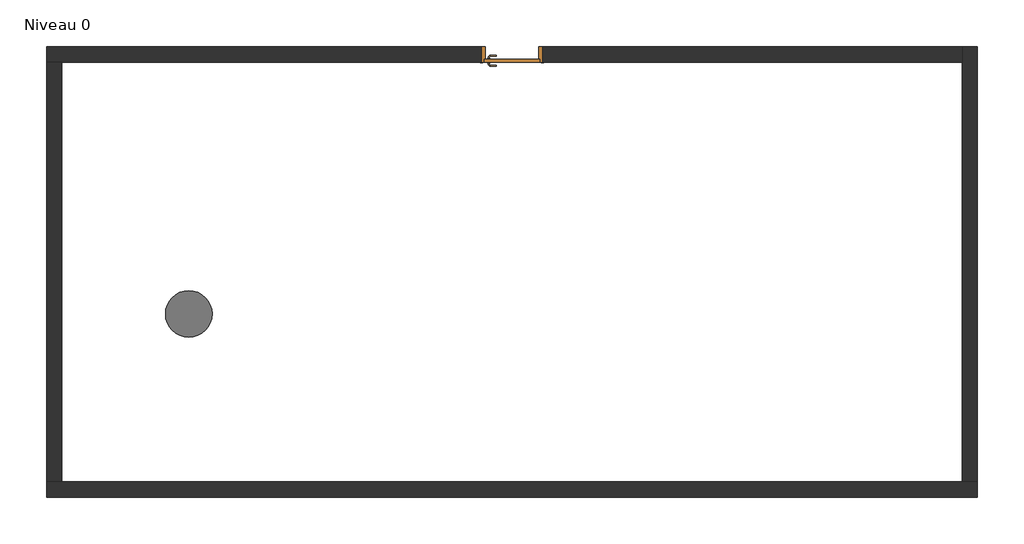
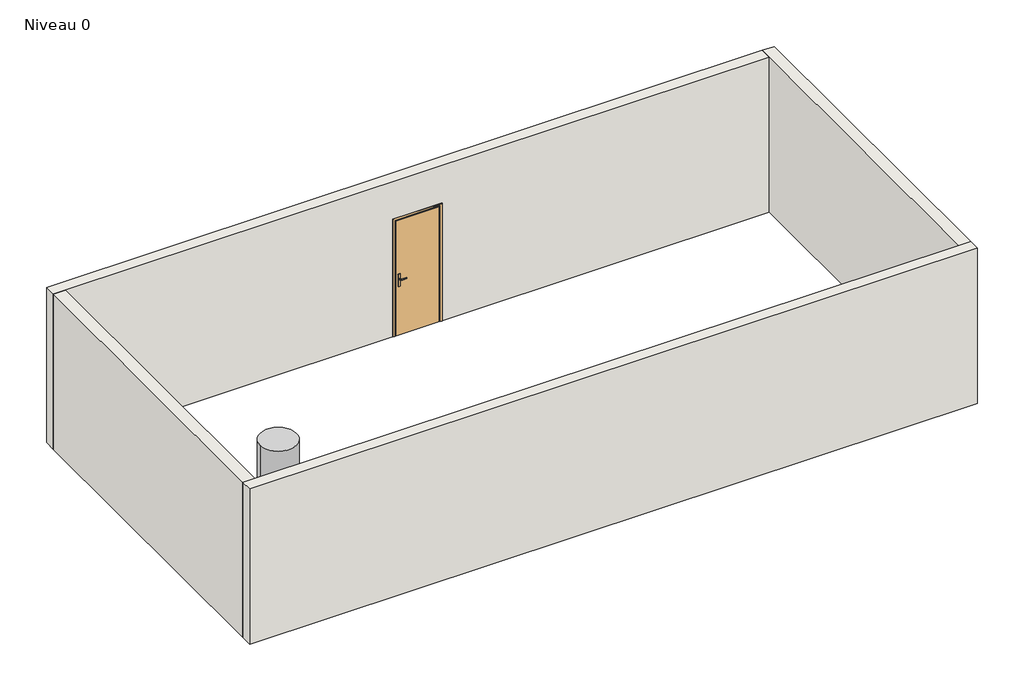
# One storey, incomplete: 4 walls, 1 door, 1 flow terminal.
"""IFC4 building model written with IfcOpenShell, lengths in millimetres."""

import ifcopenshell
import ifcopenshell.guid

model = None  # the IFC model being written
_history = None  # IfcOwnerHistory: only IFC2X3 demands one
_inside = {}  # id of a spatial element -> (the spatial element, [elements in it])
_under = {}  # id of a project, library or spatial element -> (it, [spatial elements below it])
_declared = {}  # id of a project -> (the project, [libraries it declares])
_typed = {}  # id of a type object -> (the type object, [elements of that type])
_made_of = {}  # id of a material, layer set ... -> (it, [elements and type objects made of it])


def new_model(schema):
    """Start an empty IFC model of exactly this schema.

    Asked for "IFC4X3", IfcOpenShell would pick the latest addendum, in which some entities
    have other attributes; the version numbers below select the first issue.
    IFC2X3 requires an IfcOwnerHistory on every rooted entity: one is made here for all.
    """
    global model, _history
    if schema == "IFC4X3":
        model = ifcopenshell.file(schema_version=(4, 3, 0, 0))
    else:
        model = ifcopenshell.file(schema=schema)
    _inside.clear()
    _under.clear()
    _declared.clear()
    _typed.clear()
    _made_of.clear()
    _history = None
    if model.schema == "IFC2X3":
        org = make("IfcOrganization", Name="unknown")
        user = make(
            "IfcPersonAndOrganization",
            ThePerson=make("IfcPerson", FamilyName="unknown"),
            TheOrganization=org,
        )
        app = make(
            "IfcApplication",
            ApplicationDeveloper=org,
            Version="unknown",
            ApplicationFullName="unknown",
            ApplicationIdentifier="unknown",
        )
        _history = make(
            "IfcOwnerHistory",
            OwningUser=user,
            OwningApplication=app,
            ChangeAction="ADDED",
            CreationDate=0,
        )
    return model


def make(cls, **values):
    """One entity of the class cls with the attributes given. An attribute that is None is left unset."""
    return model.create_entity(
        cls, **{name: value for name, value in values.items() if value is not None}
    )


def rooted(cls, **values):
    """An entity with a GlobalId (a new one), such as an element, a storey or a relation."""
    return make(cls, GlobalId=ifcopenshell.guid.new(), OwnerHistory=_history, **values)


def si_unit(unit_type, name, prefix=None):
    """IfcSIUnit, for example si_unit("LENGTHUNIT", "METRE", prefix="MILLI")."""
    return make("IfcSIUnit", UnitType=unit_type, Prefix=prefix, Name=name)


def assignment(units):
    """IfcUnitAssignment: the units of a project."""
    return None if units is None else make("IfcUnitAssignment", Units=units)


def point(xyz):
    """IfcCartesianPoint."""
    return None if xyz is None else make("IfcCartesianPoint", Coordinates=xyz)


def direction(xyz):
    """IfcDirection."""
    return None if xyz is None else make("IfcDirection", DirectionRatios=xyz)


def frame(location, z_axis=None, x_axis=None):
    """IfcAxis2Placement3D, a coordinate frame: its origin and axes. An axis left out is left unset."""
    return make(
        "IfcAxis2Placement3D",
        Location=point(location),
        Axis=direction(z_axis),
        RefDirection=direction(x_axis),
    )


def frame_2d(location, x_axis=None):
    """IfcAxis2Placement2D, a coordinate frame in the plane: its origin and x axis."""
    return make(
        "IfcAxis2Placement2D", Location=point(location), RefDirection=direction(x_axis)
    )


def origin():
    """The frame at (0, 0, 0) with its axes left unset."""
    return frame((0.0, 0.0, 0.0))


def origin_with_axes():
    """The frame at (0, 0, 0) with the z axis (0, 0, 1) and the x axis (1, 0, 0) written out."""
    return frame((0.0, 0.0, 0.0), z_axis=(0.0, 0.0, 1.0), x_axis=(1.0, 0.0, 0.0))


def origin_2d():
    """The frame at (0, 0) in the plane with its x axis left unset."""
    return frame_2d((0.0, 0.0))


def place(relative_to, where):
    """IfcLocalPlacement: puts the frame where relative to a parent placement (None: the world)."""
    return make(
        "IfcLocalPlacement", PlacementRelTo=relative_to, RelativePlacement=where
    )


def context(
    kind, dimensions, precision=None, world=None, true_north=None, identifier=None
):
    """IfcGeometricRepresentationContext, for example the 3D "Model" context."""
    return make(
        "IfcGeometricRepresentationContext",
        ContextIdentifier=identifier,
        ContextType=kind,
        CoordinateSpaceDimension=dimensions,
        Precision=precision,
        WorldCoordinateSystem=world,
        TrueNorth=true_north,
    )


def project(units=None, contexts=None):
    """IfcProject with its units and contexts."""
    return rooted(
        "IfcProject",
        Name="project",
        RepresentationContexts=contexts,
        UnitsInContext=assignment(units),
    )


def spatial(cls, under=None, at=None, **own):
    """A site, building, storey or space (cls), placed at a placement, below another one or the project."""
    s = rooted(cls, ObjectPlacement=at, **own)
    if under is not None:
        _under.setdefault(under.id(), (under, []))[1].append(s)
    return s


def polyline(points):
    """IfcPolyline through the points."""
    return make("IfcPolyline", Points=[point(p) for p in points])


def circle_curve(where, radius):
    """IfcCircle in the frame where."""
    return make("IfcCircle", Position=where, Radius=radius)


def ellipse_curve(where, semi_axis1, semi_axis2):
    """IfcEllipse in the frame where."""
    return make(
        "IfcEllipse", Position=where, SemiAxis1=semi_axis1, SemiAxis2=semi_axis2
    )


def trimmed(basis, trim1, trim2, sense, master):
    """IfcTrimmedCurve: the piece of a basis curve between two trims."""
    return make(
        "IfcTrimmedCurve",
        BasisCurve=basis,
        Trim1=trim1,
        Trim2=trim2,
        SenseAgreement=sense,
        MasterRepresentation=master,
    )


def segment(curve, same_sense, transition):
    """IfcCompositeCurveSegment."""
    return make(
        "IfcCompositeCurveSegment",
        Transition=transition,
        SameSense=same_sense,
        ParentCurve=curve,
    )


def composite_curve(segments, self_intersect=None):
    """IfcCompositeCurve: segments joined end to end."""
    return make("IfcCompositeCurve", Segments=segments, SelfIntersect=self_intersect)


def outline(outer, holes=None, kind="AREA"):
    """IfcArbitraryClosedProfileDef: a profile drawn as a closed curve; with holes, ...WithVoids."""
    if holes is None:
        return make("IfcArbitraryClosedProfileDef", ProfileType=kind, OuterCurve=outer)
    return make(
        "IfcArbitraryProfileDefWithVoids",
        ProfileType=kind,
        OuterCurve=outer,
        InnerCurves=holes,
    )


def extrude(swept, where, along, depth):
    """IfcExtrudedAreaSolid: the profile swept, set in the frame where, extruded along a direction by depth."""
    return make(
        "IfcExtrudedAreaSolid",
        SweptArea=swept,
        Position=where,
        ExtrudedDirection=direction(along),
        Depth=depth,
    )


def faces_of(points, faces, orient=None, outer=None):
    """IfcFace entities. A face is a list of loops; a loop is a list of indices into points, from 0.

    orient and outer hold one flag for each loop. By default every Orientation is true, the
    first loop of a face is its IfcFaceOuterBound and the others are IfcFaceBound.
    """
    made = []
    for i, loops in enumerate(faces):
        bounds = []
        for j, loop in enumerate(loops):
            is_outer = j == 0 if outer is None else outer[i][j]
            bounds.append(
                make(
                    "IfcFaceOuterBound" if is_outer else "IfcFaceBound",
                    Bound=make("IfcPolyLoop", Polygon=[points[k] for k in loop]),
                    Orientation=True if orient is None else orient[i][j],
                )
            )
        made.append(make("IfcFace", Bounds=bounds))
    return made


def faceted_brep(points, faces, orient=None, outer=None, voids=None):
    """IfcFacetedBrep: a solid bounded by flat faces; with voids (closed shells), ...WithVoids."""
    shared = [point(p) for p in points]
    hull = make("IfcClosedShell", CfsFaces=faces_of(shared, faces, orient, outer))
    if voids is None:
        return make("IfcFacetedBrep", Outer=hull)
    return make(
        "IfcFacetedBrepWithVoids",
        Outer=hull,
        Voids=[
            make(cls, CfsFaces=faces_of(shared, fs, o, b)) for cls, fs, o, b in voids
        ],
    )


def shape(context_of_items, identifier, shape_type, items):
    """IfcShapeRepresentation: the items that make up one representation, for example the "Body"."""
    return make(
        "IfcShapeRepresentation",
        ContextOfItems=context_of_items,
        RepresentationIdentifier=identifier,
        RepresentationType=shape_type,
        Items=items,
    )


def source(mapping_origin, context_of_items, identifier, shape_type, items):
    """IfcRepresentationMap: a shape defined once, which mapped items show again and again."""
    return make(
        "IfcRepresentationMap",
        MappingOrigin=mapping_origin,
        MappedRepresentation=shape(context_of_items, identifier, shape_type, items),
    )


def transform(
    local_origin,
    x_axis=None,
    y_axis=None,
    z_axis=None,
    scale=None,
    scale2=None,
    scale3=None,
    uniform=True,
):
    """IfcCartesianTransformationOperator3D, or its non-uniform kind. x_axis, y_axis, z_axis: its Axis1, 2, 3."""
    if uniform:
        return make(
            "IfcCartesianTransformationOperator3D",
            Axis1=direction(x_axis),
            Axis2=direction(y_axis),
            LocalOrigin=point(local_origin),
            Scale=scale,
            Axis3=direction(z_axis),
        )
    return make(
        "IfcCartesianTransformationOperator3DnonUniform",
        Axis1=direction(x_axis),
        Axis2=direction(y_axis),
        LocalOrigin=point(local_origin),
        Scale=scale,
        Axis3=direction(z_axis),
        Scale2=scale2,
        Scale3=scale3,
    )


def mapped(mapping_source, mapping_target):
    """IfcMappedItem: shows the shape of a source again, moved by a transform."""
    return make(
        "IfcMappedItem", MappingSource=mapping_source, MappingTarget=mapping_target
    )


def made_of(thing, what):
    """Note that an element or type object is made of a material, layer set ...; save() writes the relation."""
    if what is not None:
        _made_of.setdefault(what.id(), (what, []))[1].append(thing)
    return thing


def element(
    cls,
    number,
    at=None,
    inside=None,
    cuts=None,
    type_object=None,
    material=None,
    context=None,
    identifier="Body",
    shape_type=None,
    held_by="IfcProductDefinitionShape",
    body=None,
    shapes=None,
    **own,
):
    """One element of the class cls, such as IfcWall. Its Tag is "e" and its number.

    at: its placement. inside: the storey or other place that contains it. cuts: it is an
    opening in that element (IfcRelVoidsElement). A single representation is given by context,
    identifier, shape_type and body (its items); several are given by shapes. held_by: the class
    of the entity that holds the representations. save() writes the other relations.
    """
    e = rooted(cls, Tag="e%d" % number, ObjectPlacement=at, **own)
    if body is not None:
        shapes = [shape(context, identifier, shape_type, body)]
    if shapes is not None:
        e.Representation = make(held_by, Representations=shapes)
    if inside is not None:
        _inside.setdefault(inside.id(), (inside, []))[1].append(e)
    if cuts is not None:
        rooted(
            "IfcRelVoidsElement", RelatingBuildingElement=cuts, RelatedOpeningElement=e
        )
    if type_object is not None:
        _typed.setdefault(type_object.id(), (type_object, []))[1].append(e)
    return made_of(e, material)


def aggregate(whole, parts):
    """IfcRelAggregates: a whole, such as a stair, and the parts it consists of."""
    return rooted("IfcRelAggregates", RelatingObject=whole, RelatedObjects=parts)


def save(model, path):
    """Write the relations noted so far, then the file.

    IfcRelAggregates (storeys below a building ...), IfcRelContainedInSpatialStructure (elements
    in a storey), IfcRelDefinesByType, IfcRelAssociatesMaterial and IfcRelDeclares: one each for
    every whole, place, type object, material and project.
    """
    for whole, parts in _under.values():
        aggregate(whole, parts)
    for where, things in _inside.values():
        rooted(
            "IfcRelContainedInSpatialStructure",
            RelatedElements=things,
            RelatingStructure=where,
        )
    for kind, things in _typed.values():
        rooted("IfcRelDefinesByType", RelatedObjects=things, RelatingType=kind)
    for what, things in _made_of.values():
        rooted("IfcRelAssociatesMaterial", RelatedObjects=things, RelatingMaterial=what)
    for by, libraries in _declared.values():
        rooted("IfcRelDeclares", RelatingContext=by, RelatedDefinitions=libraries)
    model.write(path)


def plane_surface(at):
    """IfcPlane: the flat surface through the origin of the frame at, square to its z axis."""
    return make("IfcPlane", Position=at)


def cylinder_surface(at, radius):
    """IfcCylindricalSurface: all points at the distance radius from the z axis of the frame at."""
    return make("IfcCylindricalSurface", Position=at, Radius=radius)


def advanced_brep(points, edges, surfaces, faces):
    """IfcAdvancedBrep: a solid bounded by faces that lie on surfaces and meet in shared edges.

    An edge is (start, end): straight between two places in points (the first is 0);
    or (start, end, curve); or (start, end, curve, False) where it runs against its curve.
    A face is (place in surfaces, loops), or (place, loops, False) where it looks against
    its surface's normal. A loop lists edges by number (the first is 1), with a minus sign
    where the edge is run from its end to its start. The first loop is the outer one.
    """
    corners = [point(p) for p in points]
    vertices = [make("IfcVertexPoint", VertexGeometry=c) for c in corners]
    made = []
    for start, end, *more in edges:
        made.append(
            make(
                "IfcEdgeCurve",
                EdgeStart=vertices[start],
                EdgeEnd=vertices[end],
                EdgeGeometry=more[0] if more else make("IfcPolyline", Points=[corners[start], corners[end]]),
                SameSense=more[1] if len(more) > 1 else True,
            )
        )
    hull = []
    for where, loops, *sense in faces:
        bounds = []
        for j, loop in enumerate(loops):
            ring = [make("IfcOrientedEdge", EdgeElement=made[abs(k) - 1], Orientation=k > 0) for k in loop]
            bounds.append(
                make(
                    "IfcFaceOuterBound" if j == 0 else "IfcFaceBound",
                    Bound=make("IfcEdgeLoop", EdgeList=ring),
                    Orientation=True,
                )
            )
        hull.append(make("IfcAdvancedFace", Bounds=bounds, FaceSurface=surfaces[where], SameSense=sense[0] if sense else True))
    return make("IfcAdvancedBrep", Outer=make("IfcClosedShell", CfsFaces=hull))


def int_simple_pp_0_73m_x_2_04m_83361101(model_context):
    return source(origin(), model_context, "Body", "SolidModel", [
        extrude(outline(composite_curve([segment(trimmed(circle_curve(frame_2d((904.6410162, -340.0)), 40.0), [point((870.0, -360.0))], [point((870.0, -320.0))], False, "CARTESIAN"), True, "CONTINUOUS"), segment(polyline([(870.0, -320.0), (1080.0, -320.0)]), True, "CONTINUOUS"), segment(trimmed(circle_curve(frame_2d((1045.3589838, -340.0)), 40.0), [point((1080.0, -320.0))], [point((1080.0, -360.0))], False, "CARTESIAN"), True, "CONTINUOUS"), segment(polyline([(1080.0, -360.0), (870.0, -360.0)]), True, "CONTINUOUS")], self_intersect=False)), frame((0.0, -105.0, 0.0), z_axis=(0.0, 1.0, 0.0), x_axis=(0.0, 0.0, 1.0)), (0.0, 0.0, 1.0), 5.0),
        extrude(outline(composite_curve([segment(trimmed(circle_curve(frame_2d((1045.3589838, -340.0)), 40.0), [point((1080.0, -320.0))], [point((1080.0, -360.0))], False, "CARTESIAN"), True, "CONTINUOUS"), segment(polyline([(1080.0, -360.0), (870.0, -360.0)]), True, "CONTINUOUS"), segment(trimmed(circle_curve(frame_2d((904.6410162, -340.0)), 40.0), [point((870.0, -360.0))], [point((870.0, -320.0))], False, "CARTESIAN"), True, "CONTINUOUS"), segment(polyline([(870.0, -320.0), (1080.0, -320.0)]), True, "CONTINUOUS")], self_intersect=False)), frame((0.0, -60.0, 0.0), z_axis=(0.0, 1.0, 0.0), x_axis=(0.0, 0.0, 1.0)), (0.0, 0.0, 1.0), 5.0),
        advanced_brep(
        [(-346.0, -105.0, 1007.0), (-334.0, -105.0, 1007.0), (-334.0, -105.0, 993.0), (-346.0, -105.0, 993.0), (-346.0, -132.6509507, 1007.0), (-334.0, -127.680388, 1007.0), (-334.0, -127.680388, 993.0), (-346.0, -132.6509507, 993.0), (-327.62279, -151.0281607, 1007.0), (-322.6522273, -139.0281607, 1007.0), (-322.6522273, -139.0281607, 993.0), (-327.62279, -151.0281607, 993.0), (-239.9813594, -151.0281607, 1007.0), (-239.9813594, -151.0281607, 993.0), (-239.9813594, -139.0281607, 993.0), (-239.9813594, -139.0281607, 1007.0)],
        [
            (0, 1, circle_curve(frame((-340.0, -105.0, 986.9542278), z_axis=(0.0, 1.0, 0.0), x_axis=(1.0, 0.0, 0.0)), 20.9244589)),
            (1, 2),
            (2, 3, circle_curve(frame((-340.0, -105.0, 1013.0457722), z_axis=(0.0, 1.0, 0.0), x_axis=(1.0, 0.0, 0.0)), 20.9244589)),
            (3, 0),
            (0, 4),
            (4, 5, ellipse_curve(frame((-340.0, -130.1656693, 986.9542278), z_axis=(-0.3826834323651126, 0.9238795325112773, 0.0), x_axis=(0.9238795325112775, 0.38268343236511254, 0.0)), 22.6484711, 20.9244589)),
            (5, 1),
            (5, 6),
            (6, 2),
            (6, 7, ellipse_curve(frame((-340.0, -130.1656693, 1013.0457722), z_axis=(-0.3826834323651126, 0.9238795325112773, 0.0), x_axis=(0.9238795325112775, 0.38268343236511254, 0.0)), 22.6484711, 20.9244589)),
            (7, 3),
            (7, 4),
            (4, 8),
            (8, 9, ellipse_curve(frame((-325.1375086, -145.0281607, 986.9542278), z_axis=(-0.9238795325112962, 0.38268343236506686, 0.0), x_axis=(0.3826834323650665, 0.9238795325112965, 0.0)), 22.6484711, 20.9244589)),
            (9, 5),
            (9, 10),
            (10, 6),
            (10, 11, ellipse_curve(frame((-325.1375086, -145.0281607, 1013.0457722), z_axis=(-0.9238795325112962, 0.38268343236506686, 0.0), x_axis=(0.3826834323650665, 0.9238795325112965, 0.0)), 22.6484711, 20.9244589)),
            (11, 7),
            (11, 8),
            (12, 13),
            (13, 14, circle_curve(frame((-239.9813594, -145.0281607, 1013.0457722), z_axis=(1.0, 0.0, 0.0), x_axis=(0.0, 1.0, 0.0)), 20.9244589)),
            (14, 15),
            (15, 12, circle_curve(frame((-239.9813594, -145.0281607, 986.9542278), z_axis=(1.0, 0.0, 0.0), x_axis=(0.0, 1.0, 0.0)), 20.9244589)),
            (8, 12),
            (15, 9),
            (14, 10),
            (13, 11),
        ],
        [
            plane_surface(frame((-349.2195445, -105.0, 1000.0), z_axis=(0.0, 1.0, 0.0), x_axis=(0.0, 0.0, -1.0))),
            cylinder_surface(frame((-340.0, -105.0, 986.9542278), z_axis=(0.0, 1.0, 0.0), x_axis=(1.0, 0.0, 0.0)), 20.9244589),
            plane_surface(frame((-334.0, -105.0, 1007.0), z_axis=(1.0, 0.0, 0.0), x_axis=(0.0, -1.0, 0.0))),
            cylinder_surface(frame((-340.0, -105.0, 1013.0457722), z_axis=(0.0, 1.0, 0.0), x_axis=(1.0, 0.0, 0.0)), 20.9244589),
            plane_surface(frame((-346.0, -105.0, 993.0), z_axis=(-1.0, 0.0, 0.0), x_axis=(0.0, -1.0, 0.0))),
            cylinder_surface(frame((-340.0, -130.1656693, 986.9542278), z_axis=(-0.7071067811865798, 0.7071067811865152, 0.0), x_axis=(0.7071067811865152, 0.7071067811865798, 0.0)), 20.9244589),
            plane_surface(frame((-334.0, -127.680388, 1007.0), z_axis=(0.7071067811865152, 0.7071067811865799, 0.0), x_axis=(0.7071067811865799, -0.7071067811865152, 0.0))),
            cylinder_surface(frame((-340.0, -130.1656693, 1013.0457722), z_axis=(-0.7071067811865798, 0.7071067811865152, 0.0), x_axis=(0.7071067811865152, 0.7071067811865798, 0.0)), 20.9244589),
            plane_surface(frame((-346.0, -132.6509507, 993.0), z_axis=(-0.7071067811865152, -0.7071067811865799, 0.0), x_axis=(0.7071067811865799, -0.7071067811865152, 0.0))),
            plane_surface(frame((-239.9813594, -145.0281607, 990.7804555), z_axis=(1.0, 0.0, 0.0), x_axis=(0.0, 1.0, 0.0))),
            cylinder_surface(frame((-325.1375086, -145.0281607, 986.9542278), z_axis=(-1.0, 0.0, 0.0), x_axis=(0.0, 1.0, 0.0)), 20.9244589),
            plane_surface(frame((-322.6522273, -139.0281607, 1007.0), z_axis=(0.0, 1.0, 0.0), x_axis=(1.0, 0.0, 0.0))),
            cylinder_surface(frame((-325.1375086, -145.0281607, 1013.0457722), z_axis=(-1.0, 0.0, 0.0), x_axis=(0.0, 1.0, 0.0)), 20.9244589),
            plane_surface(frame((-327.62279, -151.0281607, 993.0), z_axis=(0.0, -1.0, 0.0), x_axis=(1.0, 0.0, 0.0))),
        ],
        [
            (0, [[1, 2, 3, 4]]),
            (1, [[-1, 5, 6, 7]]),
            (2, [[-2, -7, 8, 9]]),
            (3, [[-3, -9, 10, 11]]),
            (4, [[-4, -11, 12, -5]]),
            (5, [[-6, 13, 14, 15]]),
            (6, [[-8, -15, 16, 17]]),
            (7, [[-10, -17, 18, 19]]),
            (8, [[-12, -19, 20, -13]]),
            (9, [[21, 22, 23, 24]]),
            (10, [[-14, 25, -24, 26]]),
            (11, [[-16, -26, -23, 27]]),
            (12, [[-18, -27, -22, 28]]),
            (13, [[-20, -28, -21, -25]]),
        ],
    ),
        advanced_brep(
        [(-334.0, -55.0, 993.0), (-334.0, -55.0, 1007.0), (-346.0, -55.0, 1007.0), (-346.0, -55.0, 993.0), (-334.0, -32.5147955, 993.0), (-334.0, -32.5147955, 1007.0), (-346.0, -27.5442327, 1007.0), (-346.0, -27.5442327, 993.0), (-322.5147186, -21.0295141, 993.0), (-322.5147186, -21.0295141, 1007.0), (-327.4852814, -9.0295141, 1007.0), (-327.4852814, -9.0295141, 993.0), (-239.9542163, -21.0295141, 993.0), (-239.9542163, -9.0295141, 993.0), (-239.9542163, -9.0295141, 1007.0), (-239.9542163, -21.0295141, 1007.0)],
        [
            (0, 1),
            (1, 2, circle_curve(frame((-340.0, -55.0, 986.9542278), z_axis=(0.0, -1.0, 0.0), x_axis=(-1.0, 0.0, 0.0)), 20.9244589)),
            (2, 3),
            (3, 0, circle_curve(frame((-340.0, -55.0, 1013.0457722), z_axis=(0.0, -1.0, 0.0), x_axis=(-1.0, 0.0, 0.0)), 20.9244589)),
            (0, 4),
            (4, 5),
            (5, 1),
            (5, 6, ellipse_curve(frame((-340.0, -30.0295141, 986.9542278), z_axis=(-0.3826834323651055, -0.9238795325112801, 0.0), x_axis=(0.9238795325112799, -0.3826834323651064, 0.0)), 22.6484711, 20.9244589)),
            (6, 2),
            (6, 7),
            (7, 3),
            (7, 4, ellipse_curve(frame((-340.0, -30.0295141, 1013.0457722), z_axis=(-0.3826834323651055, -0.9238795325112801, 0.0), x_axis=(0.9238795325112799, -0.3826834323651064, 0.0)), 22.6484711, 20.9244589)),
            (4, 8),
            (8, 9),
            (9, 5),
            (9, 10, ellipse_curve(frame((-325.0, -15.0295141, 986.9542278), z_axis=(-0.9238795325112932, -0.382683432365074, 0.0), x_axis=(0.3826834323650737, -0.9238795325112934, 0.0)), 22.6484711, 20.9244589)),
            (10, 6),
            (10, 11),
            (11, 7),
            (11, 8, ellipse_curve(frame((-325.0, -15.0295141, 1013.0457722), z_axis=(-0.9238795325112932, -0.382683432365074, 0.0), x_axis=(0.3826834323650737, -0.9238795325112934, 0.0)), 22.6484711, 20.9244589)),
            (12, 13, circle_curve(frame((-239.9542163, -15.0295141, 1013.0457722), z_axis=(1.0, 0.0, 0.0), x_axis=(0.0, 1.0, 0.0)), 20.9244589)),
            (13, 14),
            (14, 15, circle_curve(frame((-239.9542163, -15.0295141, 986.9542278), z_axis=(1.0, 0.0, 0.0), x_axis=(0.0, 1.0, 0.0)), 20.9244589)),
            (15, 12),
            (8, 12),
            (15, 9),
            (14, 10),
            (13, 11),
        ],
        [
            plane_surface(frame((-349.2195445, -55.0, 1000.0), z_axis=(0.0, -1.0, 0.0), x_axis=(0.0, 0.0, 1.0))),
            plane_surface(frame((-334.0, -55.0, 993.0), z_axis=(1.0, 0.0, 0.0), x_axis=(0.0, 1.0, 0.0))),
            cylinder_surface(frame((-340.0, -55.0, 986.9542278), z_axis=(0.0, -1.0, 0.0), x_axis=(-1.0, 0.0, 0.0)), 20.9244589),
            plane_surface(frame((-346.0, -55.0, 1007.0), z_axis=(-1.0, 0.0, 0.0), x_axis=(0.0, 1.0, 0.0))),
            cylinder_surface(frame((-340.0, -55.0, 1013.0457722), z_axis=(0.0, -1.0, 0.0), x_axis=(-1.0, 0.0, 0.0)), 20.9244589),
            plane_surface(frame((-334.0, -32.5147955, 993.0), z_axis=(0.7071067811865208, -0.7071067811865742, 0.0), x_axis=(0.7071067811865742, 0.7071067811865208, 0.0))),
            cylinder_surface(frame((-340.0, -30.0295141, 986.9542278), z_axis=(-0.7071067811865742, -0.7071067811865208, 0.0), x_axis=(-0.7071067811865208, 0.7071067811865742, 0.0)), 20.9244589),
            plane_surface(frame((-346.0, -27.5442327, 1007.0), z_axis=(-0.7071067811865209, 0.7071067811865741, 0.0), x_axis=(0.7071067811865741, 0.7071067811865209, 0.0))),
            cylinder_surface(frame((-340.0, -30.0295141, 1013.0457722), z_axis=(-0.7071067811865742, -0.7071067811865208, 0.0), x_axis=(-0.7071067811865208, 0.7071067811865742, 0.0)), 20.9244589),
            plane_surface(frame((-239.9542163, -15.0295141, 990.7804555), z_axis=(1.0, 0.0, 0.0), x_axis=(0.0, 1.0, 0.0))),
            plane_surface(frame((-322.5147186, -21.0295141, 993.0), z_axis=(0.0, -1.0, 0.0), x_axis=(1.0, 0.0, 0.0))),
            cylinder_surface(frame((-325.0, -15.0295141, 986.9542278), z_axis=(-1.0, 0.0, 0.0), x_axis=(0.0, 1.0, 0.0)), 20.9244589),
            plane_surface(frame((-327.4852814, -9.0295141, 1007.0), z_axis=(0.0, 1.0, 0.0), x_axis=(1.0, 0.0, 0.0))),
            cylinder_surface(frame((-325.0, -15.0295141, 1013.0457722), z_axis=(-1.0, 0.0, 0.0), x_axis=(0.0, 1.0, 0.0)), 20.9244589),
        ],
        [
            (0, [[1, 2, 3, 4]]),
            (1, [[-1, 5, 6, 7]]),
            (2, [[-2, -7, 8, 9]]),
            (3, [[-3, -9, 10, 11]]),
            (4, [[-4, -11, 12, -5]]),
            (5, [[-6, 13, 14, 15]]),
            (6, [[-8, -15, 16, 17]]),
            (7, [[-10, -17, 18, 19]]),
            (8, [[-12, -19, 20, -13]]),
            (9, [[21, 22, 23, 24]]),
            (10, [[-14, 25, -24, 26]]),
            (11, [[-16, -26, -23, 27]]),
            (12, [[-18, -27, -22, 28]]),
            (13, [[-20, -28, -21, -25]]),
        ],
    ),
        extrude(outline(polyline([(-400.0, -60.0), (330.0, -60.0), (330.0, -100.0), (-400.0, -100.0), (-400.0, -60.0)])), origin_with_axes(), (0.0, 0.0, 1.0), 2040.0),
        faceted_brep([(-435.0, -100.0, 0.0), (-435.0, 100.0, 0.0), (-385.0, 100.0, 0.0), (-385.0, -60.0, 0.0), (-400.0, -60.0, 0.0), (-400.0, -100.0, 0.0), (-435.0, -100.0, 2075.0), (-435.0, 100.0, 2075.0), (365.0, 100.0, 2075.0), (365.0, 100.0, 0.0), (315.0, 100.0, 0.0), (315.0, 100.0, 2025.0), (-385.0, 100.0, 2025.0), (-385.0, -60.0, 2025.0), (315.0, -60.0, 2025.0), (315.0, -60.0, 0.0), (330.0, -60.0, 0.0), (330.0, -60.0, 2040.0), (-400.0, -60.0, 2040.0), (-400.0, -100.0, 2040.0), (330.0, -100.0, 2040.0), (330.0, -100.0, 0.0), (365.0, -100.0, 0.0), (365.0, -100.0, 2075.0)], [[[0, 1, 2, 3, 4, 5]], [[1, 0, 6, 7]], [[2, 1, 7, 8, 9, 10, 11, 12]], [[3, 2, 12, 13]], [[4, 3, 13, 14, 15, 16, 17, 18]], [[5, 4, 18, 19]], [[0, 5, 19, 20, 21, 22, 23, 6]], [[8, 23, 22, 9]], [[22, 21, 16, 15, 10, 9]], [[14, 11, 10, 15]], [[20, 17, 16, 21]], [[7, 6, 23, 8]], [[13, 12, 11, 14]], [[19, 18, 17, 20]]]),
        extrude(outline(polyline([(0.0, -450.0), (0.0, -420.0), (2060.0, -420.0), (2060.0, 350.0), (0.0, 350.0), (0.0, 380.0), (2090.0, 380.0), (2090.0, -450.0), (0.0, -450.0)])), frame((0.0, -105.0, 0.0), z_axis=(0.0, 1.0, 0.0), x_axis=(0.0, 0.0, 1.0)), (0.0, 0.0, 1.0), 5.0),
        extrude(outline(polyline([(0.0, -450.0), (0.0, -420.0), (2060.0, -420.0), (2060.0, 350.0), (0.0, 350.0), (0.0, 380.0), (2090.0, 380.0), (2090.0, -450.0), (0.0, -450.0)])), frame((0.0, 100.0, 0.0), z_axis=(0.0, 1.0, 0.0), x_axis=(0.0, 0.0, 1.0)), (0.0, 0.0, 1.0), 5.0),
    ])


def flow_terminal_ca0f13d3(model_context):
    return source(origin(), model_context, "Body", "SweptSolid", [
        extrude(outline(composite_curve([segment(trimmed(circle_curve(origin_2d(), 305.0), [point((-305.0, 0.0))], [point((305.0, 0.0))], False, "CARTESIAN"), True, "CONTINUOUS"), segment(trimmed(circle_curve(origin_2d(), 305.0), [point((305.0, 0.0))], [point((-305.0, 0.0))], False, "CARTESIAN"), True, "CONTINUOUS")], self_intersect=False)), origin_with_axes(), (0.0, 0.0, 1.0), 1525.0),
    ])


model = new_model("IFC4")

# Units and contexts
model_context = context("Model", 3, world=origin())
ifc_project = project(units=[si_unit("LENGTHUNIT", "METRE", prefix="MILLI")], contexts=[model_context])

# Site, building, storey
site = spatial("IfcSite", under=ifc_project)
building = spatial("IfcBuilding", under=site)
storey = spatial("IfcBuildingStorey", under=building, Name="Niveau 0", Elevation=0.0)

# Door
placement = place(None, origin())
int_simple_pp_0_73m_x_2_04m_shape = int_simple_pp_0_73m_x_2_04m_83361101(model_context)
element("IfcDoor", 1, ObjectType="Int. Simple : PP (0.73m x 2.04m)", at=placement, inside=storey, context=model_context, shape_type="MappedRepresentation", body=[
    mapped(int_simple_pp_0_73m_x_2_04m_shape, transform((-3450.9595349, -2720.9581289, 0.0), x_axis=(1.0, 0.0, 0.0), y_axis=(0.0, 1.0, 0.0), z_axis=(0.0, 0.0, 1.0))),
])

# Flow terminal
flow_terminal_shape = flow_terminal_ca0f13d3(model_context)
element("IfcFlowTerminal", 2, ObjectType="Chauffe eau : Chauffe eau", at=placement, inside=storey, context=model_context, shape_type="MappedRepresentation", body=[
    mapped(flow_terminal_shape, transform((-7721.6338467, -6120.9581289, 0.0), x_axis=(1.0, 0.0, 0.0), y_axis=(0.0, 1.0, 0.0), z_axis=(0.0, 0.0, 1.0))),
])

# Walls
element("IfcWall", 3, ObjectType="Générique - Ext. 200 mm", at=placement, inside=storey, context=model_context, shape_type="Brep", body=[
    faceted_brep([(-9585.9595349, -8520.9581289, 0.0), (2614.0404651, -8520.9581289, 0.0), (2614.0404651, -8520.9581289, 2750.0), (-9585.9595349, -8520.9581289, 2750.0), (-9585.9595349, -8320.9581289, 0.0), (-9585.9595349, -8320.9581289, 2750.0), (-9385.9595349, -8320.9581289, 2750.0), (2414.0404651, -8320.9581289, 2750.0), (2614.0404651, -8320.9581289, 2750.0), (2614.0404651, -8320.9581289, 0.0), (2414.0404651, -8320.9581289, 0.0), (-9385.9595349, -8320.9581289, 0.0)], [[[0, 1, 2, 3]], [[4, 5, 6, 7, 8, 9, 10, 11]], [[1, 0, 4, 11, 10, 9]], [[3, 2, 8, 7, 6, 5]], [[2, 1, 9, 8]], [[0, 3, 5, 4]]]),
])
element("IfcWall", 4, ObjectType="Générique - Ext. 200 mm", at=placement, inside=storey, context=model_context, shape_type="Brep", body=[
    faceted_brep([(2614.0404651, -8320.9581289, 0.0), (2614.0404651, -2620.9581289, 0.0), (2614.0404651, -2620.9581289, 2750.0), (2614.0404651, -8320.9581289, 2750.0), (2414.0404651, -8320.9581289, 0.0), (2414.0404651, -8320.9581289, 2750.0), (2414.0404651, -2820.9581289, 2750.0), (2414.0404651, -2620.9581289, 2750.0), (2414.0404651, -2620.9581289, 0.0), (2414.0404651, -2820.9581289, 0.0)], [[[0, 1, 2, 3]], [[4, 5, 6, 7, 8, 9]], [[1, 0, 4, 9, 8]], [[3, 2, 7, 6, 5]], [[0, 3, 5, 4]], [[2, 1, 8, 7]]]),
])
element("IfcWall", 5, ObjectType="Générique - Ext. 200 mm", at=placement, inside=storey, context=model_context, shape_type="Brep", body=[
    faceted_brep([(-9585.9595349, -2620.9581289, 2750.0), (2414.0404651, -2620.9581289, 2750.0), (2414.0404651, -2620.9581289, 0.0), (-3085.9595349, -2620.9581289, 0.0), (-3085.9595349, -2620.9581289, 2075.0), (-3885.9595349, -2620.9581289, 2075.0), (-3885.9595349, -2620.9581289, 0.0), (-9585.9595349, -2620.9581289, 0.0), (2414.0404651, -2820.9581289, 2750.0), (-9385.9595349, -2820.9581289, 2750.0), (-9585.9595349, -2820.9581289, 2750.0), (-9585.9595349, -2820.9581289, 0.0), (-9385.9595349, -2820.9581289, 0.0), (-3885.9595349, -2820.9581289, 0.0), (-3885.9595349, -2820.9581289, 2075.0), (-3085.9595349, -2820.9581289, 2075.0), (-3085.9595349, -2820.9581289, 0.0), (2414.0404651, -2820.9581289, 0.0)], [[[0, 1, 2, 3, 4, 5, 6, 7]], [[8, 9, 10, 11, 12, 13, 14, 15, 16, 17]], [[2, 17, 16, 3]], [[11, 7, 6, 13, 12]], [[1, 0, 10, 9, 8]], [[2, 1, 8, 17]], [[0, 7, 11, 10]], [[15, 4, 3, 16]], [[4, 15, 14, 5]], [[5, 14, 13, 6]]]),
])
element("IfcWall", 6, ObjectType="Générique - Ext. 200 mm", at=placement, inside=storey, context=model_context, shape_type="SweptSolid", body=[
    extrude(outline(polyline([(-9585.9595349, -8320.9581289), (-9585.9595349, -2820.9581289), (-9385.9595349, -2820.9581289), (-9385.9595349, -8320.9581289), (-9585.9595349, -8320.9581289)])), origin_with_axes(), (0.0, 0.0, 1.0), 2750.0),
])

save(model, "model.ifc")
